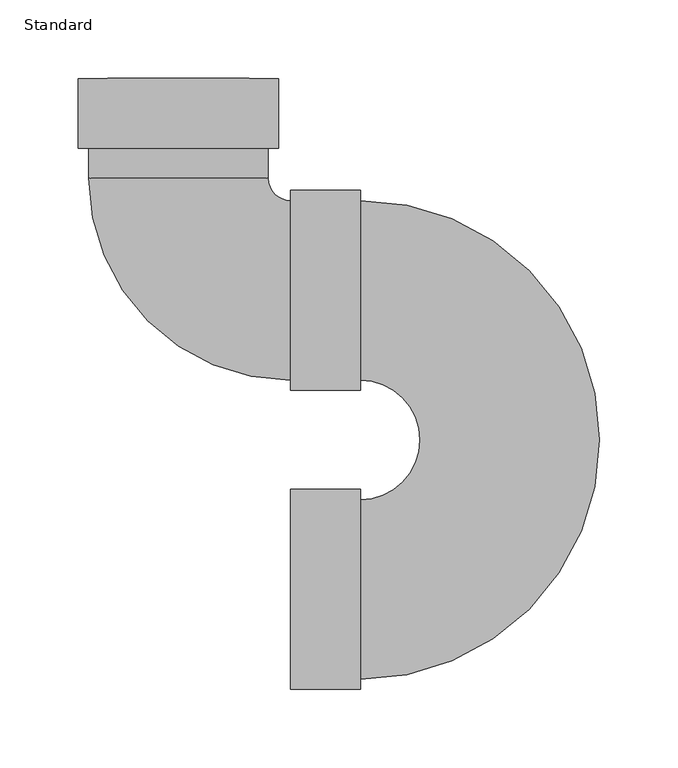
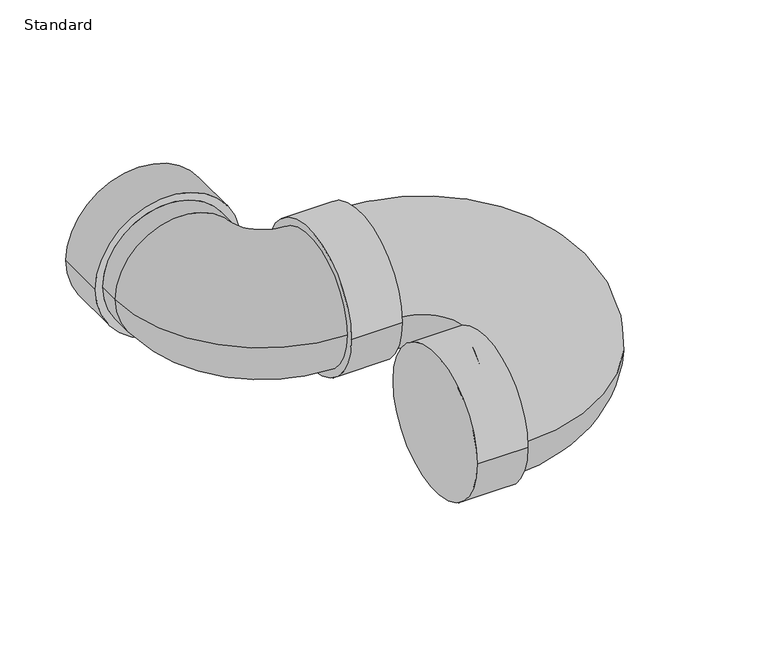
"""IFC4 building model written with IfcOpenShell, lengths in millimetres: pipe fitting geometry, GES P TRAP PVC Sch 40 - DWV : Standard."""

from ifc_helpers import new_model, si_unit, point, frame, origin, place, context, project, spatial, circle_curve, ellipse_curve, trimmed, source, transform, mapped, element, save
from ifc_brep_helpers import plane_surface, cylinder_surface, revolved_surface, advanced_brep


def standard_b798bd9b(model_context):
    return source(origin(), model_context, "Body", "AdvancedBrep", [
        advanced_brep(
        [(-63.754, 325.4375, 0.0), (63.754, 325.4375, 0.0), (-63.754, 280.9875, 0.0), (63.754, 280.9875, 0.0), (-57.15, 280.9875, 0.0), (57.15, 280.9875, 0.0), (57.15, 261.9375, 0.0), (-57.15, 261.9375, 0.0), (71.4375, 133.35, 0.0), (71.4375, 247.65, 0.0), (115.8875, -57.15, 0.0), (115.8875, 247.65, 0.0), (115.8875, 133.35, 0.0), (115.8875, 57.15, 0.0), (71.4375, 126.746, 0.0), (71.4375, 254.254, 0.0), (115.8875, 126.746, 0.0), (115.8875, 254.254, 0.0), (71.4375, -63.754, 0.0), (71.4375, 63.754, 0.0), (115.8875, -63.754, 0.0), (115.8875, 63.754, 0.0)],
        [
            (0, 1, circle_curve(frame((0.0, 325.4375, 0.0), z_axis=(0.0, 1.0, 0.0), x_axis=(1.0, 0.0, 0.0)), 63.754)),
            (1, 0, circle_curve(frame((0.0, 325.4375, 0.0), z_axis=(0.0, 1.0, 0.0), x_axis=(1.0, 0.0, 0.0)), 63.754)),
            (2, 3, circle_curve(frame((0.0, 280.9875, 0.0), z_axis=(0.0, -1.0, 0.0), x_axis=(1.0, 0.0, 0.0)), 63.754)),
            (3, 2, circle_curve(frame((0.0, 280.9875, 0.0), z_axis=(0.0, -1.0, 0.0), x_axis=(1.0, 0.0, 0.0)), 63.754)),
            (4, 5, circle_curve(frame((0.0, 280.9875, 0.0), z_axis=(0.0, 1.0, 0.0), x_axis=(1.0, 0.0, 0.0)), 57.15)),
            (5, 4, circle_curve(frame((0.0, 280.9875, 0.0), z_axis=(0.0, 1.0, 0.0), x_axis=(1.0, 0.0, 0.0)), 57.15)),
            (0, 2),
            (3, 1),
            (6, 7, circle_curve(frame((0.0, 261.9375, 0.0), z_axis=(0.0, -1.0, 0.0), x_axis=(1.0, 0.0, 0.0)), 57.15)),
            (7, 8, circle_curve(frame((71.4375, 261.9375, 0.0), z_axis=(0.0, 0.0, 1.0), x_axis=(-1.0, 0.0, 0.0)), 128.5875)),
            (8, 9, circle_curve(frame((71.4375, 190.5, 0.0), z_axis=(-1.0, 0.0, 0.0), x_axis=(0.0, 1.0, 0.0)), 57.15)),
            (9, 6, circle_curve(frame((71.4375, 261.9375, 0.0), z_axis=(0.0, 0.0, -1.0), x_axis=(-1.0, 0.0, 0.0)), 14.2875)),
            (7, 6, circle_curve(frame((0.0, 261.9375, 0.0), z_axis=(0.0, -1.0, 0.0), x_axis=(1.0, 0.0, 0.0)), 57.15)),
            (9, 8, circle_curve(frame((71.4375, 190.5, 0.0), z_axis=(-1.0, 0.0, 0.0), x_axis=(0.0, 1.0, 0.0)), 57.15)),
            (10, 11, circle_curve(frame((115.8875, 95.25, 0.0), z_axis=(0.0, 0.0, 1.0), x_axis=(0.0, 1.0, 0.0)), 152.4)),
            (11, 12, circle_curve(frame((115.8875, 190.5, 0.0), z_axis=(1.0, 0.0, 0.0), x_axis=(0.0, 1.0, 0.0)), 57.15)),
            (12, 13, circle_curve(frame((115.8875, 95.25, 0.0), z_axis=(0.0, 0.0, -1.0), x_axis=(0.0, 1.0, 0.0)), 38.1)),
            (13, 10, circle_curve(frame((115.8875, 0.0, 0.0), z_axis=(1.0, 0.0, 0.0), x_axis=(0.0, -1.0, 0.0)), 57.15)),
            (10, 13, circle_curve(frame((115.8875, 0.0, 0.0), z_axis=(1.0, 0.0, 0.0), x_axis=(0.0, -1.0, 0.0)), 57.15)),
            (12, 11, circle_curve(frame((115.8875, 190.5, 0.0), z_axis=(1.0, 0.0, 0.0), x_axis=(0.0, 1.0, 0.0)), 57.15)),
            (14, 15, circle_curve(frame((71.4375, 190.5, 0.0), z_axis=(-1.0, 0.0, 0.0), x_axis=(0.0, 1.0, 0.0)), 63.754)),
            (15, 14, circle_curve(frame((71.4375, 190.5, 0.0), z_axis=(-1.0, 0.0, 0.0), x_axis=(0.0, 1.0, 0.0)), 63.754)),
            (16, 17, circle_curve(frame((115.8875, 190.5, 0.0), z_axis=(1.0, 0.0, 0.0), x_axis=(0.0, 1.0, 0.0)), 63.754)),
            (17, 16, circle_curve(frame((115.8875, 190.5, 0.0), z_axis=(1.0, 0.0, 0.0), x_axis=(0.0, 1.0, 0.0)), 63.754)),
            (14, 16),
            (17, 15),
            (18, 19, circle_curve(frame((71.4375, 0.0, 0.0), z_axis=(-1.0, 0.0, 0.0), x_axis=(0.0, 1.0, 0.0)), 63.754)),
            (19, 18, circle_curve(frame((71.4375, 0.0, 0.0), z_axis=(-1.0, 0.0, 0.0), x_axis=(0.0, 1.0, 0.0)), 63.754)),
            (20, 21, circle_curve(frame((115.8875, 0.0, 0.0), z_axis=(1.0, 0.0, 0.0), x_axis=(0.0, 1.0, 0.0)), 63.754)),
            (21, 20, circle_curve(frame((115.8875, 0.0, 0.0), z_axis=(1.0, 0.0, 0.0), x_axis=(0.0, 1.0, 0.0)), 63.754)),
            (18, 20),
            (21, 19),
            (6, 5),
            (4, 7),
        ],
        [
            plane_surface(frame((0.0, 325.4375, 0.0), z_axis=(0.0, 1.0, 0.0), x_axis=(0.0, 0.0, 1.0))),
            plane_surface(frame((0.0, 280.9875, 0.0), z_axis=(0.0, -1.0, 0.0), x_axis=(0.0, 0.0, 1.0))),
            cylinder_surface(frame((0.0, 325.4375, 0.0), z_axis=(0.0, 1.0, 0.0), x_axis=(1.0, 0.0, 0.0)), 63.754),
            revolved_surface(trimmed(ellipse_curve(frame((0.0, 261.9375, 0.0), z_axis=(0.0, 1.0, 0.0), x_axis=(1.0, 0.0, 0.0)), 57.15, 57.15), [point((-57.15, 261.9375, 0.0))], [point((57.15, 261.9375, 0.0))], True, "CARTESIAN"), (71.4375, 261.9375, 0.0), (0.0, 0.0, 1.0)),
            revolved_surface(trimmed(ellipse_curve(frame((0.0, 261.9375, 0.0), z_axis=(0.0, 1.0, 0.0), x_axis=(1.0, 0.0, 0.0)), 57.15, 57.15), [point((57.15, 261.9375, 0.0))], [point((-57.15, 261.9375, 0.0))], True, "CARTESIAN"), (71.4375, 261.9375, 0.0), (0.0, 0.0, 1.0)),
            revolved_surface(trimmed(ellipse_curve(frame((115.8875, 190.5, 0.0), z_axis=(-1.0, 0.0, 0.0), x_axis=(0.0, 1.0, 0.0)), 57.15, 57.15), [point((115.8875, 133.35, 0.0))], [point((115.8875, 247.65, 0.0))], True, "CARTESIAN"), (115.8875, 95.25, 0.0), (0.0, 0.0, -1.0)),
            revolved_surface(trimmed(ellipse_curve(frame((115.8875, 190.5, 0.0), z_axis=(-1.0, 0.0, 0.0), x_axis=(0.0, 1.0, 0.0)), 57.15, 57.15), [point((115.8875, 247.65, 0.0))], [point((115.8875, 133.35, 0.0))], True, "CARTESIAN"), (115.8875, 95.25, 0.0), (0.0, 0.0, -1.0)),
            plane_surface(frame((71.4375, 190.5, 0.0), z_axis=(-1.0, 0.0, 0.0), x_axis=(0.0, 0.0, 1.0))),
            plane_surface(frame((115.8875, 190.5, 0.0), z_axis=(1.0, 0.0, 0.0), x_axis=(0.0, 0.0, 1.0))),
            cylinder_surface(frame((71.4375, 190.5, 0.0), z_axis=(-1.0, 0.0, 0.0), x_axis=(0.0, 1.0, 0.0)), 63.754),
            plane_surface(frame((71.4375, 0.0, 0.0), z_axis=(-1.0, 0.0, 0.0), x_axis=(0.0, 0.0, 1.0))),
            plane_surface(frame((115.8875, 0.0, 0.0), z_axis=(1.0, 0.0, 0.0), x_axis=(0.0, 0.0, 1.0))),
            cylinder_surface(frame((71.4375, 0.0, 0.0), z_axis=(-1.0, 0.0, 0.0), x_axis=(0.0, 1.0, 0.0)), 63.754),
            cylinder_surface(frame((0.0, 325.4375, 0.0), z_axis=(0.0, 1.0, 0.0), x_axis=(1.0, 0.0, 0.0)), 57.15),
        ],
        [
            (0, [[1, 2]]),
            (1, [[3, 4], [5, 6]]),
            (2, [[-1, 7, -4, 8]]),
            (2, [[-2, -8, -3, -7]]),
            (3, [[9, 10, 11, 12]]),
            (4, [[13, -12, 14, -10]]),
            (5, [[15, 16, 17, 18]]),
            (6, [[-15, 19, -17, 20]]),
            (7, [[21, 22], [-11, -14]]),
            (8, [[23, 24], [-16, -20]]),
            (9, [[-21, 25, -24, 26]]),
            (9, [[-22, -26, -23, -25]]),
            (10, [[27, 28]]),
            (11, [[29, 30], [-18, -19]]),
            (12, [[-27, 31, -30, 32]]),
            (12, [[-28, -32, -29, -31]]),
            (13, [[-9, 33, -5, 34]]),
            (13, [[-13, -34, -6, -33]]),
        ],
    ),
    ])


if __name__ == "__main__":
    model = new_model("IFC4")
    model_context = context("Model", 3, world=origin())
    ifc_project = project(units=[si_unit("LENGTHUNIT", "METRE", prefix="MILLI")], contexts=[model_context])
    site = spatial("IfcSite", under=ifc_project)
    building = spatial("IfcBuilding", under=site)
    placement = place(None, origin())
    standard_shape = standard_b798bd9b(model_context)
    element("IfcPipeFitting", 1, ObjectType="GES P TRAP PVC Sch 40 - DWV : Standard", at=placement, inside=building, context=model_context, shape_type="MappedRepresentation", body=[
        mapped(standard_shape, transform((0.0, 0.0, 0.0), x_axis=(1.0, 0.0, 0.0), y_axis=(0.0, 1.0, 0.0), z_axis=(0.0, 0.0, 1.0))),
    ])
    save(model, "model.ifc")
